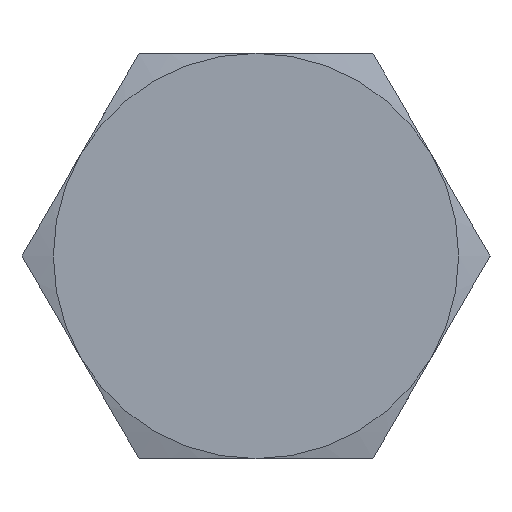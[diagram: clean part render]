
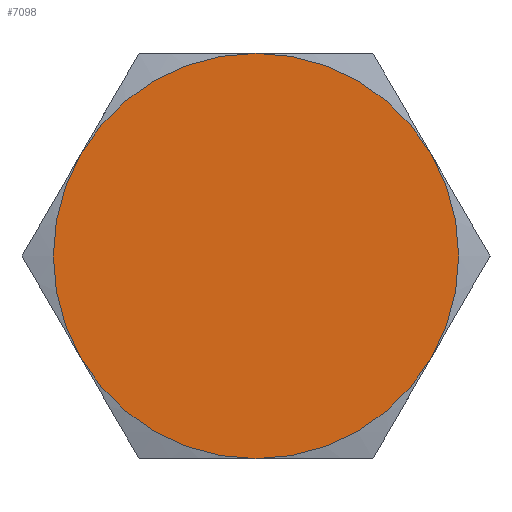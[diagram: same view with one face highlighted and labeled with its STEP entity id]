
A CAD part, left-side view. The second image highlights one B-rep face of the part: STEP entity #7098.
In plain terms, the highlighted planar face has unit normal (-1, 0, 0).
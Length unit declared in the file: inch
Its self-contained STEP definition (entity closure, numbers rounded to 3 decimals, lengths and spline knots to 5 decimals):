
#6708=CARTESIAN_POINT('',(-0.5,-0.70365,0.40625));
#6709=VERTEX_POINT('',#6708);
#6723=CARTESIAN_POINT('',(-0.5,0.0,0.8125));
#6724=VERTEX_POINT('',#6723);
#6738=CARTESIAN_POINT('',(-0.5,0.0,0.));
#6739=DIRECTION('',(-1.0,0.0,0.0));
#6740=DIRECTION('',(0.0,0.0,-1.0));
#6741=AXIS2_PLACEMENT_3D('',#6738,#6739,#6740);
#6742=CIRCLE('',#6741,0.8125);
#6743=EDGE_CURVE('',#6709,#6724,#6742,.T.);
#6755=CARTESIAN_POINT('',(-0.5,-0.70365,-0.40625));
#6756=VERTEX_POINT('',#6755);
#6783=CARTESIAN_POINT('',(-0.5,0.0,0.));
#6784=DIRECTION('',(-1.0,0.0,0.0));
#6785=DIRECTION('',(0.0,0.0,-1.0));
#6786=AXIS2_PLACEMENT_3D('',#6783,#6784,#6785);
#6787=CIRCLE('',#6786,0.8125);
#6788=EDGE_CURVE('',#6756,#6709,#6787,.T.);
#6800=CARTESIAN_POINT('',(-0.5,0.0,-0.8125));
#6801=VERTEX_POINT('',#6800);
#6828=CARTESIAN_POINT('',(-0.5,0.0,0.));
#6829=DIRECTION('',(-1.0,0.0,0.0));
#6830=DIRECTION('',(0.0,0.0,-1.0));
#6831=AXIS2_PLACEMENT_3D('',#6828,#6829,#6830);
#6832=CIRCLE('',#6831,0.8125);
#6833=EDGE_CURVE('',#6801,#6756,#6832,.T.);
#6858=CARTESIAN_POINT('',(-0.5,0.70365,-0.40625));
#6859=VERTEX_POINT('',#6858);
#6860=CARTESIAN_POINT('',(-0.5,0.0,0.));
#6861=DIRECTION('',(-1.0,0.0,0.0));
#6862=DIRECTION('',(0.0,0.0,-1.0));
#6863=AXIS2_PLACEMENT_3D('',#6860,#6861,#6862);
#6864=CIRCLE('',#6863,0.8125);
#6865=EDGE_CURVE('',#6859,#6801,#6864,.T.);
#6903=CARTESIAN_POINT('',(-0.5,0.70365,0.40625));
#6904=VERTEX_POINT('',#6903);
#6905=CARTESIAN_POINT('',(-0.5,0.0,0.));
#6906=DIRECTION('',(-1.0,0.0,0.0));
#6907=DIRECTION('',(0.0,0.0,-1.0));
#6908=AXIS2_PLACEMENT_3D('',#6905,#6906,#6907);
#6909=CIRCLE('',#6908,0.8125);
#6910=EDGE_CURVE('',#6904,#6859,#6909,.T.);
#6948=CARTESIAN_POINT('',(-0.5,0.0,0.));
#6949=DIRECTION('',(-1.0,0.0,0.0));
#6950=DIRECTION('',(0.0,0.0,-1.0));
#6951=AXIS2_PLACEMENT_3D('',#6948,#6949,#6950);
#6952=CIRCLE('',#6951,0.8125);
#6953=EDGE_CURVE('',#6724,#6904,#6952,.T.);
#7085=CARTESIAN_POINT('',(-0.5,0.0,0.));
#7086=DIRECTION('',(1.0,0.0,0.0));
#7087=DIRECTION('',(0.0,0.0,-1.0));
#7088=AXIS2_PLACEMENT_3D('',#7085,#7086,#7087);
#7089=PLANE('',#7088);
#7090=ORIENTED_EDGE('',*,*,#6953,.T.);
#7091=ORIENTED_EDGE('',*,*,#6910,.T.);
#7092=ORIENTED_EDGE('',*,*,#6865,.T.);
#7093=ORIENTED_EDGE('',*,*,#6833,.T.);
#7094=ORIENTED_EDGE('',*,*,#6788,.T.);
#7095=ORIENTED_EDGE('',*,*,#6743,.T.);
#7096=EDGE_LOOP('',(#7090,#7091,#7092,#7093,#7094,#7095));
#7097=FACE_OUTER_BOUND('',#7096,.T.);
#7098=ADVANCED_FACE('',(#7097),#7089,.F.);
